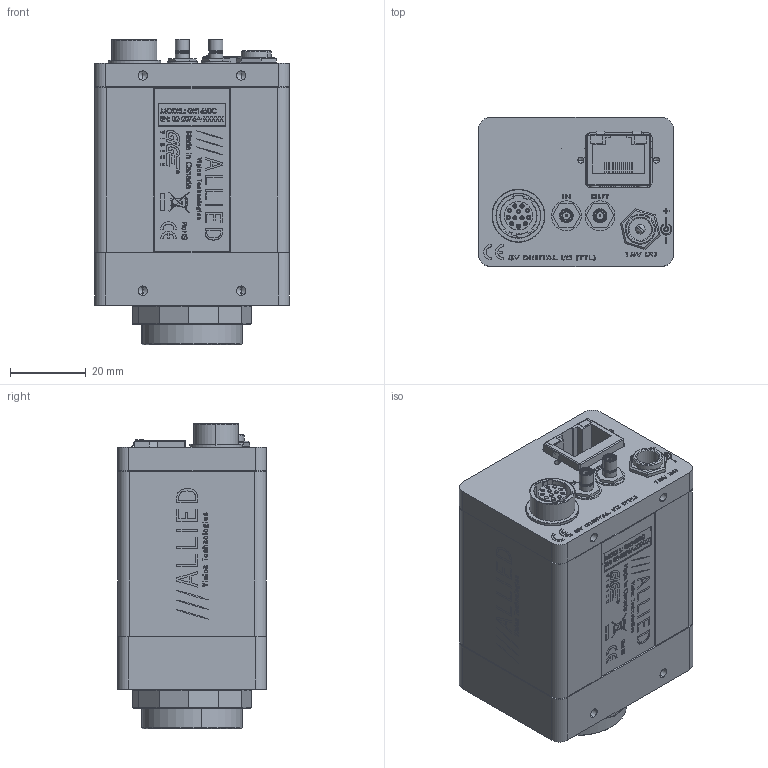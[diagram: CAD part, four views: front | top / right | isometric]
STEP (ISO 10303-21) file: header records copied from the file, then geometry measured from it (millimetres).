
FILE_DESCRIPTION (( 'STEP AP214' ), '1' );
FILE_NAME ('GE1650C.STEP', '2013-07-31T21:25:44', ( '' ), ( '' ), 'SwSTEP 2.0', 'SolidWorks 2013', '' );
FILE_SCHEMA (( 'AUTOMOTIVE_DESIGN' ));
Length unit declared in the file: millimetre
Products named in the file (37): 140008-washer spring lock #4; 100051B - GE BACKPLATE ASSY; 260014-SWITCHCRAFT PC712A; 110036B GE COVER EXTRUDED SHORT WITH LOGO_Finished; GE1650C; 110033B-C GE BACK PLATE; 100100A - GE1650C FRONT ASSY; 140000-AMPHENOL 903-10408-1; 110031A-B EC-CCD LOCKING RING; 260010-HIROSE HR10A-10R-12SB NUT; 220104-KODAK KAI-2020C; 260010-HIROSE HR10A-10R-12SB; KODAK KAI-2020 WINDOW; 260014-SWITCHCRAFT PC712A NUT; KODAK KAI-2020 BODY; 260010-HIROSE HR10A-10R-12SB WASHER; 110046A-GE KODAK 2M FRONT PLATE; 100000AA-CV SMB GROUNDING ASSEMBLY; 110003AC-CV CMOUNT RING; 270006-JUMPER WIRE MODIFIED; 100097A-IR FILTER ASSEMBLY 0.75 INCH; 140001-AMPHENOL 903-10409-1; 440002-IR CUT FILTER 22MM DIA; 140034-SWITCHCRAFT P10149 WITH WIRE; 110054AB-IR FILTER SUPPORT; 270006-JUMPER WIRE 18MM LONG; 110053AA-GE KODAK 2M CCD DUST SHIELD GASKET; 140034-SWITCHCRAFT P10149; 140002-KEYSTONE 349; 740031B-GE SERIES LABEL; 260009-AMPHENOL 903-406J-51R; 740052A-A GE1650C LABEL PRINT; 140015-screw pan head phillips 4-40 x 0.1875; 100137A - GE CAMERA BACK ASSEMBLY - for GE KODAK 1M2M; 200031B-A GE INTERFACE PCB ASSY; 140007-screw socket head cap #4-40x2; 260029 BELFUSE 0826-1C1T-23
Assembly tree (50 placements, depth 5):
  GE1650C
    140008-washer spring lock #4  x4
    140007-screw socket head cap #4-40x2  x4
    100137A - GE CAMERA BACK ASSEMBLY - for GE KODAK 1M2M
      140015-screw pan head phillips 4-40 x 0.1875
      100051B - GE BACKPLATE ASSY
        260009-AMPHENOL 903-406J-51R  x2
        140002-KEYSTONE 349  x4
        140034-SWITCHCRAFT P10149 WITH WIRE
          140034-SWITCHCRAFT P10149
          270006-JUMPER WIRE 18MM LONG
        100000AA-CV SMB GROUNDING ASSEMBLY  x2
          140001-AMPHENOL 903-10409-1
          270006-JUMPER WIRE MODIFIED
        260010-HIROSE HR10A-10R-12SB WASHER
        260014-SWITCHCRAFT PC712A NUT
        260010-HIROSE HR10A-10R-12SB
        260010-HIROSE HR10A-10R-12SB NUT
        140000-AMPHENOL 903-10408-1  x2
        110033B-C GE BACK PLATE
        260014-SWITCHCRAFT PC712A
      140008-washer spring lock #4  x2
      200031B-A GE INTERFACE PCB ASSY
        260029 BELFUSE 0826-1C1T-23
    740052A-A GE1650C LABEL PRINT
    740031B-GE SERIES LABEL
    100100A - GE1650C FRONT ASSY
      110053AA-GE KODAK 2M CCD DUST SHIELD GASKET
      100097A-IR FILTER ASSEMBLY 0.75 INCH
        110054AB-IR FILTER SUPPORT
        440002-IR CUT FILTER 22MM DIA
      110003AC-CV CMOUNT RING
      110046A-GE KODAK 2M FRONT PLATE
      220104-KODAK KAI-2020C
        KODAK KAI-2020 BODY
        KODAK KAI-2020 WINDOW
      110031A-B EC-CCD LOCKING RING
    110036B GE COVER EXTRUDED SHORT WITH LOGO_Finished
Bounding box: 51.56 x 39.37 x 80.9 mm (x, y, z)
Volume: 48669 mm3; surface area: 69347.4 mm2
Topology: 74 solids, 74 shells, 4079 faces, 10427 edges, 6787 vertices
Faces by surface type: plane 2346, bspline 896, cylinder 585, cone 252
Entity records: 191925 total; most frequent: CARTESIAN_POINT 59140, ORIENTED_EDGE 19708, DIRECTION 15464, EDGE_CURVE 9854, LINE 6838, VECTOR 6838, VERTEX_POINT 6445, AXIS2_PLACEMENT_3D 4313
